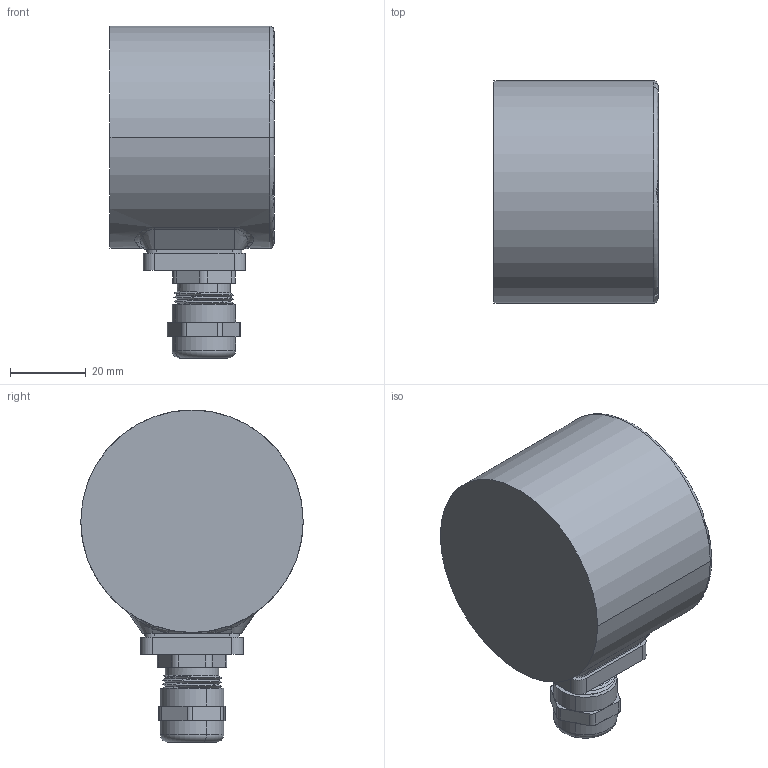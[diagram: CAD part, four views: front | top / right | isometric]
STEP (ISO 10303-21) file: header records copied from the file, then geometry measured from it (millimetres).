
FILE_DESCRIPTION (( 'STEP AP214' ), '1' );
FILE_NAME ('drawing-oc-5-cr-432-sws-nnn16t-y-crw-n.STEP', '2018-05-09T13:33:42', ( '' ), ( '' ), 'SwSTEP 2.0', 'SolidWorks 2017', '' );
FILE_SCHEMA (( 'AUTOMOTIVE_DESIGN' ));
Length unit declared in the file: millimetre
Products named in the file (1): drawing-oc-5-cr-432-sws-nnn16t-y-crw-n
Bounding box: 43.2 x 58.6 x 87.45 mm (x, y, z)
Surface area: 34294.6 mm2 (no closed solid volume)
Topology: 0 solids, 28 shells, 740 faces, 1887 edges, 1199 vertices
Faces by surface type: cylinder 230, cone 218, plane 168, torus 98, bspline 26
Entity records: 34774 total; most frequent: CARTESIAN_POINT 8308, DIRECTION 4062, ORIENTED_EDGE 3675, EDGE_CURVE 1873, AXIS2_PLACEMENT_3D 1737, VERTEX_POINT 1199, CIRCLE 1022, EDGE_LOOP 822
